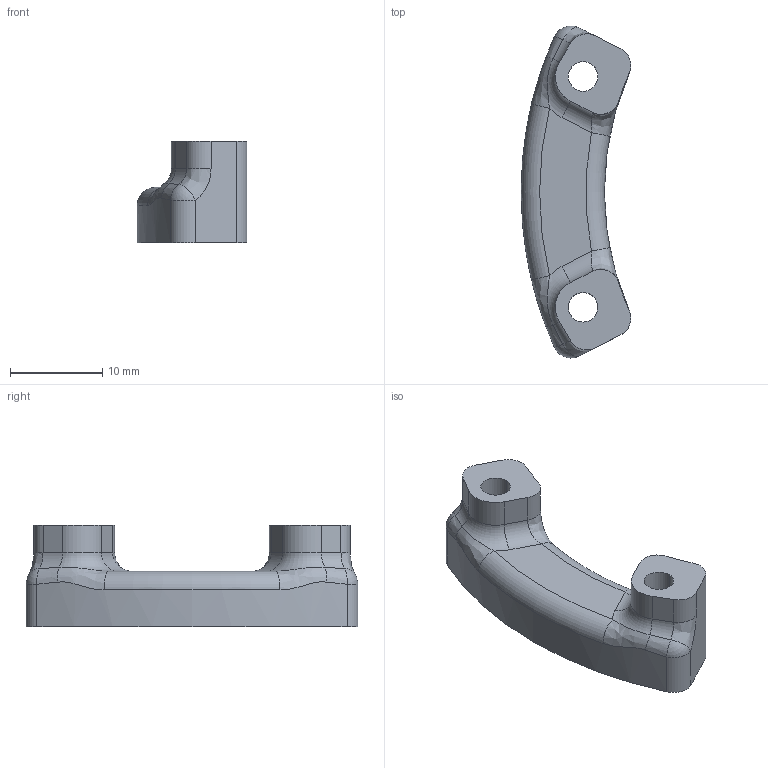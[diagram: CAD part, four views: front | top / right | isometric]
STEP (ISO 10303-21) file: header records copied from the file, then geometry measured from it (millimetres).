
FILE_DESCRIPTION((''),'2;1');
FILE_NAME('KD-C-203X_BICEPYAWHARDST-514860','2025-07-12T14:04:42',('Administrator'),(''),'CREO PARAMETRIC BY PTC INC, 2022073','CREO PARAMETRIC BY PTC INC, 2022073','');
FILE_SCHEMA(('CONFIG_CONTROL_DESIGN'));
Length unit declared in the file: millimetre
Products named in the file (1): KD-C-203X_BICEPYAWHARDST-514860
Bounding box: 11.87 x 35.9 x 11 mm (x, y, z)
Volume: 1909.5 mm3; surface area: 1603.6 mm2
Topology: 1 solids, 1 shells, 54 faces, 142 edges, 90 vertices
Faces by surface type: cylinder 24, plane 12, bspline 8, cone 4, torus 4, sphere 2
Entity records: 1939 total; most frequent: CARTESIAN_POINT 571, DIRECTION 286, ORIENTED_EDGE 280, EDGE_CURVE 140, AXIS2_PLACEMENT_3D 120, VERTEX_POINT 90, CIRCLE 74, EDGE_LOOP 60
